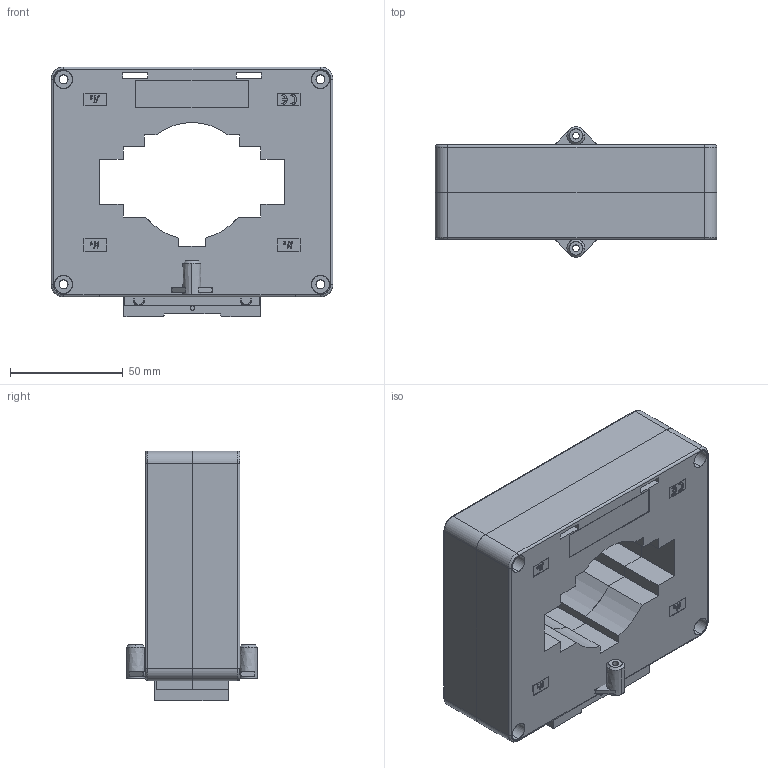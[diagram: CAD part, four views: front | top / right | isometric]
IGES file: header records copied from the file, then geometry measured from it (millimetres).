
Start section: SolidWorks IGES file using analytic representation for surfaces
Bounding box: 125.2 x 58.07 x 111.07 mm (x, y, z)
Surface area: 121387.7 mm2 (no closed solid volume)
Topology: 0 solids, 0 shells, 1357 faces, 13917 edges, 13917 vertices
Faces by surface type: bspline 998, revolution 359
